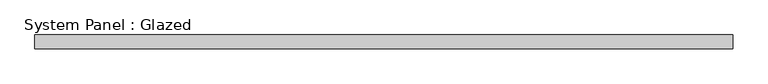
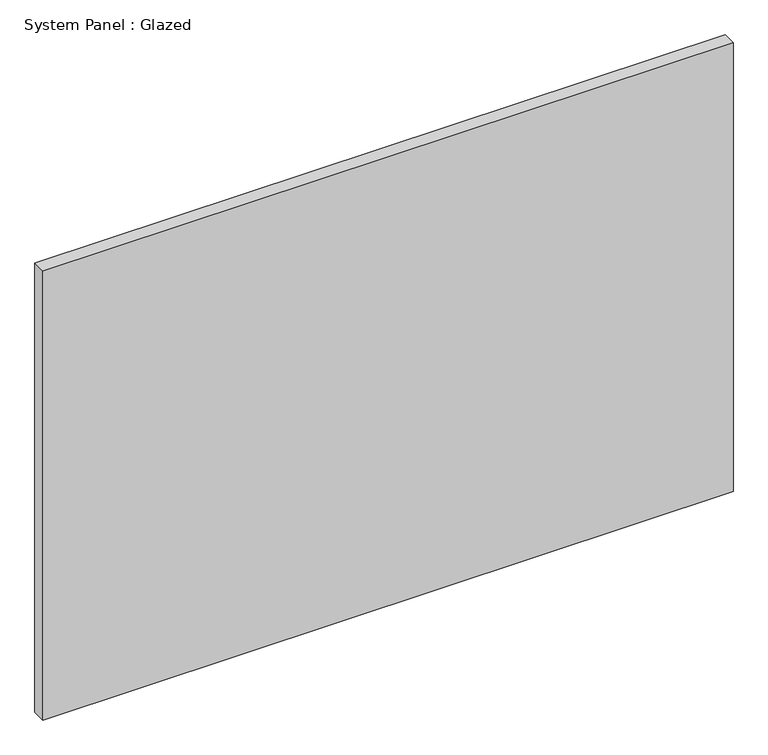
"""IFC4 building model written with IfcOpenShell, lengths in millimetres: plate geometry, System Panel : Glazed."""

import ifcopenshell
import ifcopenshell.guid

model = None  # the IFC model being written
_history = None  # IfcOwnerHistory: only IFC2X3 demands one
_inside = {}  # id of a spatial element -> (the spatial element, [elements in it])
_under = {}  # id of a project, library or spatial element -> (it, [spatial elements below it])
_declared = {}  # id of a project -> (the project, [libraries it declares])
_typed = {}  # id of a type object -> (the type object, [elements of that type])
_made_of = {}  # id of a material, layer set ... -> (it, [elements and type objects made of it])


def new_model(schema):
    """Start an empty IFC model of exactly this schema.

    Asked for "IFC4X3", IfcOpenShell would pick the latest addendum, in which some entities
    have other attributes; the version numbers below select the first issue.
    IFC2X3 requires an IfcOwnerHistory on every rooted entity: one is made here for all.
    """
    global model, _history
    if schema == "IFC4X3":
        model = ifcopenshell.file(schema_version=(4, 3, 0, 0))
    else:
        model = ifcopenshell.file(schema=schema)
    _inside.clear()
    _under.clear()
    _declared.clear()
    _typed.clear()
    _made_of.clear()
    _history = None
    if model.schema == "IFC2X3":
        org = make("IfcOrganization", Name="unknown")
        user = make(
            "IfcPersonAndOrganization",
            ThePerson=make("IfcPerson", FamilyName="unknown"),
            TheOrganization=org,
        )
        app = make(
            "IfcApplication",
            ApplicationDeveloper=org,
            Version="unknown",
            ApplicationFullName="unknown",
            ApplicationIdentifier="unknown",
        )
        _history = make(
            "IfcOwnerHistory",
            OwningUser=user,
            OwningApplication=app,
            ChangeAction="ADDED",
            CreationDate=0,
        )
    return model


def make(cls, **values):
    """One entity of the class cls with the attributes given. An attribute that is None is left unset."""
    return model.create_entity(
        cls, **{name: value for name, value in values.items() if value is not None}
    )


def rooted(cls, **values):
    """An entity with a GlobalId (a new one), such as an element, a storey or a relation."""
    return make(cls, GlobalId=ifcopenshell.guid.new(), OwnerHistory=_history, **values)


def si_unit(unit_type, name, prefix=None):
    """IfcSIUnit, for example si_unit("LENGTHUNIT", "METRE", prefix="MILLI")."""
    return make("IfcSIUnit", UnitType=unit_type, Prefix=prefix, Name=name)


def assignment(units):
    """IfcUnitAssignment: the units of a project."""
    return None if units is None else make("IfcUnitAssignment", Units=units)


def point(xyz):
    """IfcCartesianPoint."""
    return None if xyz is None else make("IfcCartesianPoint", Coordinates=xyz)


def direction(xyz):
    """IfcDirection."""
    return None if xyz is None else make("IfcDirection", DirectionRatios=xyz)


def frame(location, z_axis=None, x_axis=None):
    """IfcAxis2Placement3D, a coordinate frame: its origin and axes. An axis left out is left unset."""
    return make(
        "IfcAxis2Placement3D",
        Location=point(location),
        Axis=direction(z_axis),
        RefDirection=direction(x_axis),
    )


def origin():
    """The frame at (0, 0, 0) with its axes left unset."""
    return frame((0.0, 0.0, 0.0))


def origin_with_axes():
    """The frame at (0, 0, 0) with the z axis (0, 0, 1) and the x axis (1, 0, 0) written out."""
    return frame((0.0, 0.0, 0.0), z_axis=(0.0, 0.0, 1.0), x_axis=(1.0, 0.0, 0.0))


def place(relative_to, where):
    """IfcLocalPlacement: puts the frame where relative to a parent placement (None: the world)."""
    return make(
        "IfcLocalPlacement", PlacementRelTo=relative_to, RelativePlacement=where
    )


def context(
    kind, dimensions, precision=None, world=None, true_north=None, identifier=None
):
    """IfcGeometricRepresentationContext, for example the 3D "Model" context."""
    return make(
        "IfcGeometricRepresentationContext",
        ContextIdentifier=identifier,
        ContextType=kind,
        CoordinateSpaceDimension=dimensions,
        Precision=precision,
        WorldCoordinateSystem=world,
        TrueNorth=true_north,
    )


def project(units=None, contexts=None):
    """IfcProject with its units and contexts."""
    return rooted(
        "IfcProject",
        Name="project",
        RepresentationContexts=contexts,
        UnitsInContext=assignment(units),
    )


def spatial(cls, under=None, at=None, **own):
    """A site, building, storey or space (cls), placed at a placement, below another one or the project."""
    s = rooted(cls, ObjectPlacement=at, **own)
    if under is not None:
        _under.setdefault(under.id(), (under, []))[1].append(s)
    return s


def polyline(points):
    """IfcPolyline through the points."""
    return make("IfcPolyline", Points=[point(p) for p in points])


def outline(outer, holes=None, kind="AREA"):
    """IfcArbitraryClosedProfileDef: a profile drawn as a closed curve; with holes, ...WithVoids."""
    if holes is None:
        return make("IfcArbitraryClosedProfileDef", ProfileType=kind, OuterCurve=outer)
    return make(
        "IfcArbitraryProfileDefWithVoids",
        ProfileType=kind,
        OuterCurve=outer,
        InnerCurves=holes,
    )


def extrude(swept, where, along, depth):
    """IfcExtrudedAreaSolid: the profile swept, set in the frame where, extruded along a direction by depth."""
    return make(
        "IfcExtrudedAreaSolid",
        SweptArea=swept,
        Position=where,
        ExtrudedDirection=direction(along),
        Depth=depth,
    )


def shape(context_of_items, identifier, shape_type, items):
    """IfcShapeRepresentation: the items that make up one representation, for example the "Body"."""
    return make(
        "IfcShapeRepresentation",
        ContextOfItems=context_of_items,
        RepresentationIdentifier=identifier,
        RepresentationType=shape_type,
        Items=items,
    )


def source(mapping_origin, context_of_items, identifier, shape_type, items):
    """IfcRepresentationMap: a shape defined once, which mapped items show again and again."""
    return make(
        "IfcRepresentationMap",
        MappingOrigin=mapping_origin,
        MappedRepresentation=shape(context_of_items, identifier, shape_type, items),
    )


def transform(
    local_origin,
    x_axis=None,
    y_axis=None,
    z_axis=None,
    scale=None,
    scale2=None,
    scale3=None,
    uniform=True,
):
    """IfcCartesianTransformationOperator3D, or its non-uniform kind. x_axis, y_axis, z_axis: its Axis1, 2, 3."""
    if uniform:
        return make(
            "IfcCartesianTransformationOperator3D",
            Axis1=direction(x_axis),
            Axis2=direction(y_axis),
            LocalOrigin=point(local_origin),
            Scale=scale,
            Axis3=direction(z_axis),
        )
    return make(
        "IfcCartesianTransformationOperator3DnonUniform",
        Axis1=direction(x_axis),
        Axis2=direction(y_axis),
        LocalOrigin=point(local_origin),
        Scale=scale,
        Axis3=direction(z_axis),
        Scale2=scale2,
        Scale3=scale3,
    )


def mapped(mapping_source, mapping_target):
    """IfcMappedItem: shows the shape of a source again, moved by a transform."""
    return make(
        "IfcMappedItem", MappingSource=mapping_source, MappingTarget=mapping_target
    )


def made_of(thing, what):
    """Note that an element or type object is made of a material, layer set ...; save() writes the relation."""
    if what is not None:
        _made_of.setdefault(what.id(), (what, []))[1].append(thing)
    return thing


def element(
    cls,
    number,
    at=None,
    inside=None,
    cuts=None,
    type_object=None,
    material=None,
    context=None,
    identifier="Body",
    shape_type=None,
    held_by="IfcProductDefinitionShape",
    body=None,
    shapes=None,
    **own,
):
    """One element of the class cls, such as IfcWall. Its Tag is "e" and its number.

    at: its placement. inside: the storey or other place that contains it. cuts: it is an
    opening in that element (IfcRelVoidsElement). A single representation is given by context,
    identifier, shape_type and body (its items); several are given by shapes. held_by: the class
    of the entity that holds the representations. save() writes the other relations.
    """
    e = rooted(cls, Tag="e%d" % number, ObjectPlacement=at, **own)
    if body is not None:
        shapes = [shape(context, identifier, shape_type, body)]
    if shapes is not None:
        e.Representation = make(held_by, Representations=shapes)
    if inside is not None:
        _inside.setdefault(inside.id(), (inside, []))[1].append(e)
    if cuts is not None:
        rooted(
            "IfcRelVoidsElement", RelatingBuildingElement=cuts, RelatedOpeningElement=e
        )
    if type_object is not None:
        _typed.setdefault(type_object.id(), (type_object, []))[1].append(e)
    return made_of(e, material)


def aggregate(whole, parts):
    """IfcRelAggregates: a whole, such as a stair, and the parts it consists of."""
    return rooted("IfcRelAggregates", RelatingObject=whole, RelatedObjects=parts)


def save(model, path):
    """Write the relations noted so far, then the file.

    IfcRelAggregates (storeys below a building ...), IfcRelContainedInSpatialStructure (elements
    in a storey), IfcRelDefinesByType, IfcRelAssociatesMaterial and IfcRelDeclares: one each for
    every whole, place, type object, material and project.
    """
    for whole, parts in _under.values():
        aggregate(whole, parts)
    for where, things in _inside.values():
        rooted(
            "IfcRelContainedInSpatialStructure",
            RelatedElements=things,
            RelatingStructure=where,
        )
    for kind, things in _typed.values():
        rooted("IfcRelDefinesByType", RelatedObjects=things, RelatingType=kind)
    for what, things in _made_of.values():
        rooted("IfcRelAssociatesMaterial", RelatedObjects=things, RelatingMaterial=what)
    for by, libraries in _declared.values():
        rooted("IfcRelDeclares", RelatingContext=by, RelatedDefinitions=libraries)
    model.write(path)


def system_panel_glazed_f97b1054(model_context):
    return source(origin(), model_context, "Body", "SweptSolid", [
        extrude(outline(polyline([(632.2785714, 19.05), (-632.2785714, 19.05), (-632.2785714, 44.45), (632.2785714, 44.45), (632.2785714, 19.05)])), origin_with_axes(), (0.0, 0.0, 1.0), 869.95),
    ])


if __name__ == "__main__":
    model = new_model("IFC4")
    model_context = context("Model", 3, world=origin())
    ifc_project = project(units=[si_unit("LENGTHUNIT", "METRE", prefix="MILLI")], contexts=[model_context])
    site = spatial("IfcSite", under=ifc_project)
    building = spatial("IfcBuilding", under=site)
    placement = place(None, origin())
    system_panel_glazed_shape = system_panel_glazed_f97b1054(model_context)
    element("IfcPlate", 1, ObjectType="System Panel : Glazed", at=placement, inside=building, context=model_context, shape_type="MappedRepresentation", body=[
        mapped(system_panel_glazed_shape, transform((0.0, 0.0, 0.0), x_axis=(1.0, 0.0, 0.0), y_axis=(0.0, 1.0, 0.0), z_axis=(0.0, 0.0, 1.0))),
    ])
    save(model, "model.ifc")
